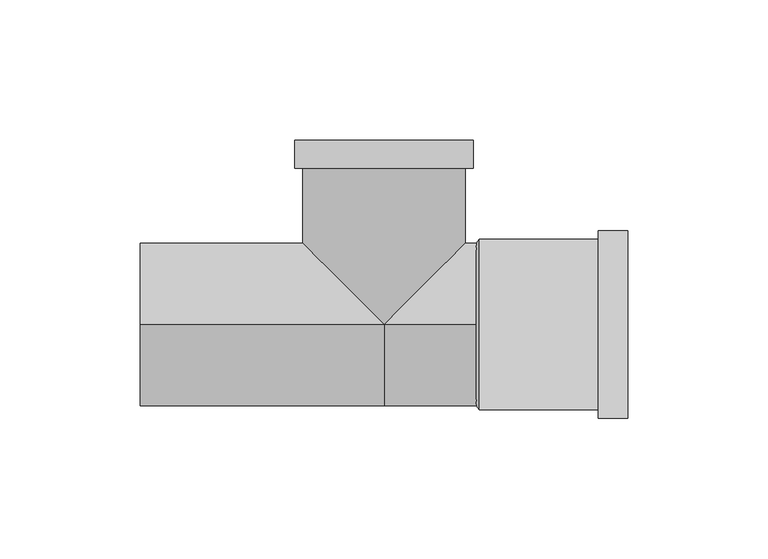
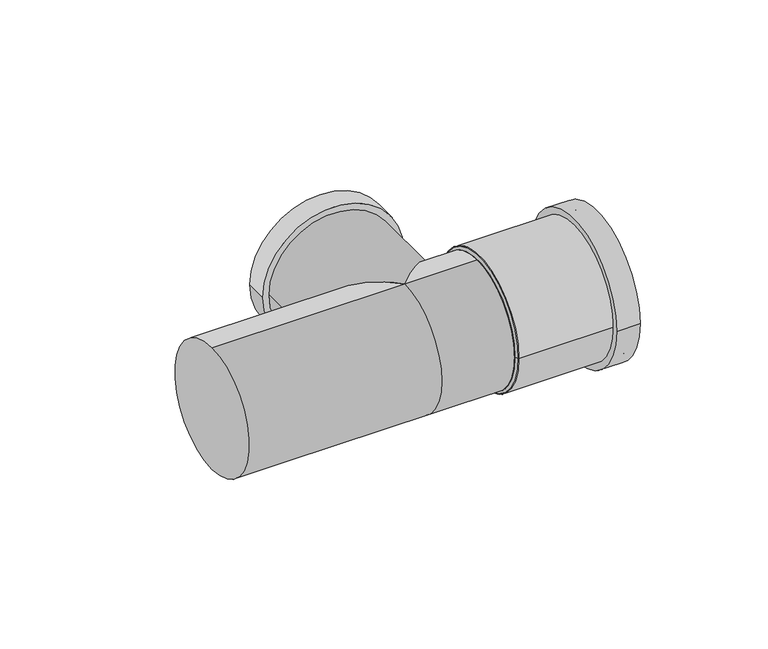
"""IFC4 building model written with IfcOpenShell, lengths in millimetres: pipe fitting geometry, Superdrain SKRE Inspection pipe : Superdrain SKRE Inspection pipe _56."""

from ifc_helpers import new_model, si_unit, point, frame, origin, origin_2d, place, context, project, spatial, polyline, circle_curve, ellipse_curve, trimmed, segment, composite_curve, outline, extrude, source, transform, mapped, element, save
from ifc_brep_helpers import plane_surface, cylinder_surface, revolved_surface, advanced_brep


def pipe_fitting_0fadc552(model_context):
    return source(origin(), model_context, "Body", "SolidModel", [
        extrude(outline(composite_curve([segment(trimmed(circle_curve(origin_2d(), 30.45), [point((30.45, 0.0))], [point((-30.45, 0.0))], False, "CARTESIAN"), True, "CONTINUOUS"), segment(trimmed(circle_curve(origin_2d(), 30.45), [point((-30.45, 0.0))], [point((30.45, 0.0))], False, "CARTESIAN"), True, "CONTINUOUS")], self_intersect=False), holes=[composite_curve([segment(trimmed(circle_curve(origin_2d(), 29.0), [point((29.0, 0.0))], [point((-29.0, 0.0))], True, "CARTESIAN"), True, "CONTINUOUS"), segment(trimmed(circle_curve(origin_2d(), 29.0), [point((-29.0, 0.0))], [point((29.0, 0.0))], True, "CARTESIAN"), True, "CONTINUOUS")], self_intersect=False)]), frame((34.0, 0.0, 0.0), z_axis=(1.0, 0.0, 0.0), x_axis=(0.0, 1.0, 0.0)), (0.0, 0.0, 1.0), 53.0),
        extrude(outline(composite_curve([segment(trimmed(circle_curve(origin_2d(), 33.495), [point((33.495, 0.0))], [point((-33.495, 0.0))], False, "CARTESIAN"), True, "CONTINUOUS"), segment(trimmed(circle_curve(origin_2d(), 33.495), [point((-33.495, 0.0))], [point((33.495, 0.0))], False, "CARTESIAN"), True, "CONTINUOUS")], self_intersect=False), holes=[composite_curve([segment(trimmed(circle_curve(origin_2d(), 29.0), [point((29.0, 0.0))], [point((-29.0, 0.0))], True, "CARTESIAN"), True, "CONTINUOUS"), segment(trimmed(circle_curve(origin_2d(), 29.0), [point((-29.0, 0.0))], [point((29.0, 0.0))], True, "CARTESIAN"), True, "CONTINUOUS")], self_intersect=False)]), frame((76.4, 0.0, 0.0), z_axis=(1.0, 0.0, 0.0), x_axis=(0.0, 1.0, 0.0)), (0.0, 0.0, 1.0), 10.6),
        advanced_brep(
        [(33.0, 29.0, 0.0), (33.0, -29.0, 0.0), (34.0, 30.45, 0.0), (34.0, -30.45, 0.0)],
        [
            (0, 1, circle_curve(frame((33.0, 0.0, 0.0), z_axis=(-1.0, 0.0, 0.0), x_axis=(0.0, 1.0, 0.0)), 29.0)),
            (1, 0, circle_curve(frame((33.0, 0.0, 0.0), z_axis=(-1.0, 0.0, 0.0), x_axis=(0.0, -1.0, 0.0)), 29.0)),
            (2, 3, circle_curve(frame((34.0, 0.0, 0.0), z_axis=(1.0, 0.0, 0.0), x_axis=(0.0, -1.0, 0.0)), 30.45)),
            (3, 2, circle_curve(frame((34.0, 0.0, 0.0), z_axis=(1.0, 0.0, 0.0), x_axis=(0.0, 1.0, 0.0)), 30.45)),
            (3, 1),
            (0, 2),
        ],
        [
            plane_surface(frame((33.0, 0.0, 0.0), z_axis=(-1.0, 0.0, 0.0), x_axis=(0.0, 0.0, -1.0))),
            plane_surface(frame((34.0, 0.0, 0.0), z_axis=(1.0, 0.0, 0.0), x_axis=(0.0, 0.0, -1.0))),
            revolved_surface(polyline([(33.0, 28.999999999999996, 0.0), (34.0, 30.45, 0.0)]), (13.0, 0.0, 0.0), (1.0, 0.0, 0.0)),
            revolved_surface(polyline([(33.0, -28.999999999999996, 0.0), (34.0, -30.45, 0.0)]), (13.0, 0.0, 0.0), (1.0, 0.0, 0.0)),
        ],
        [
            (0, [[1, 2]]),
            (1, [[3, 4]]),
            (2, [[-4, 5, -1, 6]]),
            (3, [[-3, -6, -2, -5]]),
        ],
    ),
        advanced_brep(
        [(-87.0, 0.0, -29.0), (-87.0, 0.0, 29.0), (0.0, 0.0, -29.0), (0.0, 0.0, 29.0), (-29.0, 29.0, 0.0), (34.0, 0.0, -29.0), (34.0, 0.0, 29.0), (29.0, 29.0, 0.0), (31.9, 55.8, 0.0), (-31.9, 55.8, 0.0), (29.0, 55.8, 0.0), (-29.0, 55.8, 0.0), (31.9, 65.8, 0.0), (-31.9, 65.8, 0.0)],
        [
            (0, 1, circle_curve(frame((-87.0, 0.0, 0.0), z_axis=(-1.0, 0.0, 0.0), x_axis=(0.0, 0.0, 1.0)), 29.0)),
            (1, 0, circle_curve(frame((-87.0, 0.0, 0.0), z_axis=(-1.0, 0.0, 0.0), x_axis=(0.0, 0.0, 1.0)), 29.0)),
            (0, 2),
            (2, 3, circle_curve(frame((0.0, 0.0, 0.0), z_axis=(-1.0, 0.0, 0.0), x_axis=(0.0, 0.0, 1.0)), 29.0)),
            (3, 1),
            (3, 4, ellipse_curve(frame((0.0, 0.0, 0.0), z_axis=(-0.707106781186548, -0.7071067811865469, 0.0), x_axis=(-0.7071067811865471, 0.7071067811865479, 0.0)), 41.0121933, 29.0)),
            (4, 2, ellipse_curve(frame((0.0, 0.0, 0.0), z_axis=(-0.707106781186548, -0.7071067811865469, 0.0), x_axis=(-0.7071067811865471, 0.7071067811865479, 0.0)), 41.0121933, 29.0)),
            (5, 6, circle_curve(frame((34.0, 0.0, 0.0), z_axis=(1.0, 0.0, 0.0), x_axis=(0.0, 0.0, 1.0)), 29.0)),
            (6, 5, circle_curve(frame((34.0, 0.0, 0.0), z_axis=(1.0, 0.0, 0.0), x_axis=(0.0, 0.0, 1.0)), 29.0)),
            (2, 5),
            (6, 3),
            (2, 7, ellipse_curve(frame((0.0, 0.0, 0.0), z_axis=(0.7071067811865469, -0.7071067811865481, 0.0), x_axis=(-0.7071067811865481, -0.7071067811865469, 0.0)), 41.0121933, 29.0)),
            (7, 3, ellipse_curve(frame((0.0, 0.0, 0.0), z_axis=(0.7071067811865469, -0.7071067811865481, 0.0), x_axis=(-0.7071067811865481, -0.7071067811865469, 0.0)), 41.0121933, 29.0)),
            (8, 9, circle_curve(frame((0.0, 55.8, 0.0), z_axis=(0.0, -1.0, 0.0), x_axis=(-1.0, 0.0, 0.0)), 31.9)),
            (9, 8, circle_curve(frame((0.0, 55.8, 0.0), z_axis=(0.0, -1.0, 0.0), x_axis=(-1.0, 0.0, 0.0)), 31.9)),
            (10, 11, circle_curve(frame((0.0, 55.8, 0.0), z_axis=(0.0, 1.0, 0.0), x_axis=(0.0, 0.0, -1.0)), 29.0)),
            (11, 10, circle_curve(frame((0.0, 55.8, 0.0), z_axis=(0.0, 1.0, 0.0), x_axis=(0.0, 0.0, 1.0)), 29.0)),
            (12, 13, circle_curve(frame((0.0, 65.8, 0.0), z_axis=(0.0, 1.0, 0.0), x_axis=(-1.0, 0.0, 0.0)), 31.9)),
            (13, 12, circle_curve(frame((0.0, 65.8, 0.0), z_axis=(0.0, 1.0, 0.0), x_axis=(-1.0, 0.0, 0.0)), 31.9)),
            (8, 12),
            (13, 9),
            (4, 11),
            (10, 7),
        ],
        [
            plane_surface(frame((-87.0, 0.0, 0.0), z_axis=(-1.0, 0.0, 0.0), x_axis=(0.0, -1.0, 0.0))),
            cylinder_surface(frame((-87.0, 0.0, 0.0), z_axis=(-1.0, 0.0, 0.0), x_axis=(0.0, 0.0, 1.0)), 29.0),
            plane_surface(frame((34.0, 0.0, 0.0), z_axis=(1.0, 0.0, 0.0), x_axis=(0.0, -1.0, 0.0))),
            cylinder_surface(frame((0.0, 0.0, 0.0), z_axis=(-1.0, 0.0, 0.0), x_axis=(0.0, 0.0, 1.0)), 29.0),
            plane_surface(frame((0.0, 55.8, 0.0), z_axis=(0.0, -1.0, 0.0), x_axis=(0.0, 0.0, 1.0))),
            plane_surface(frame((0.0, 65.8, 0.0), z_axis=(0.0, 1.0, 0.0), x_axis=(0.0, 0.0, 1.0))),
            cylinder_surface(frame((0.0, 55.8, 0.0), z_axis=(0.0, -1.0, 0.0), x_axis=(-1.0, 0.0, 0.0)), 31.9),
            cylinder_surface(frame((0.0, 0.0, 0.0), z_axis=(0.0, 1.0, 0.0), x_axis=(0.0, 0.0, -1.0)), 29.0),
            cylinder_surface(frame((0.0, 0.0, 0.0), z_axis=(0.0, 1.0, 0.0), x_axis=(0.0, 0.0, 1.0)), 29.0),
        ],
        [
            (0, [[1, 2]]),
            (1, [[-1, 3, 4, 5]]),
            (1, [[-2, -5, 6, 7, -3]]),
            (2, [[8, 9]]),
            (3, [[-4, 10, -9, 11]]),
            (3, [[-8, -10, 12, 13, -11]]),
            (4, [[14, 15], [16, 17]]),
            (5, [[18, 19]]),
            (6, [[-14, 20, -19, 21]]),
            (6, [[-15, -21, -18, -20]]),
            (7, [[22, -16, 23, -12, -7]]),
            (8, [[-22, -6, -13, -23, -17]]),
        ],
    ),
    ])


if __name__ == "__main__":
    model = new_model("IFC4")
    model_context = context("Model", 3, world=origin())
    ifc_project = project(units=[si_unit("LENGTHUNIT", "METRE", prefix="MILLI")], contexts=[model_context])
    site = spatial("IfcSite", under=ifc_project)
    building = spatial("IfcBuilding", under=site)
    placement = place(None, origin())
    pipe_fitting_shape = pipe_fitting_0fadc552(model_context)
    element("IfcPipeFitting", 1, ObjectType="Superdrain SKRE Inspection pipe : Superdrain SKRE Inspection pipe _56", at=placement, inside=building, context=model_context, shape_type="MappedRepresentation", body=[
        mapped(pipe_fitting_shape, transform((0.0, 0.0, 0.0), x_axis=(1.0, 0.0, 0.0), y_axis=(0.0, 1.0, 0.0), z_axis=(0.0, 0.0, 1.0))),
    ])
    save(model, "model.ifc")
